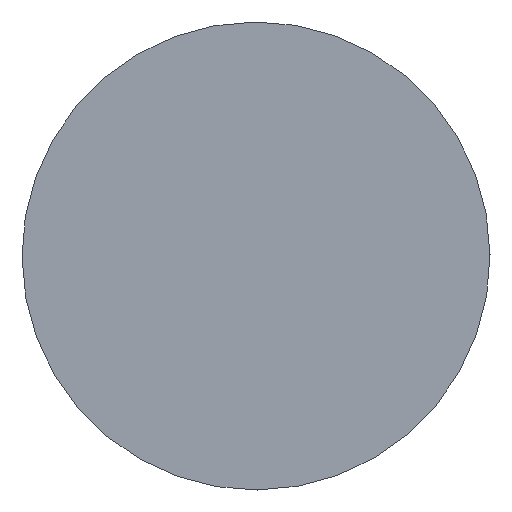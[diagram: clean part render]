
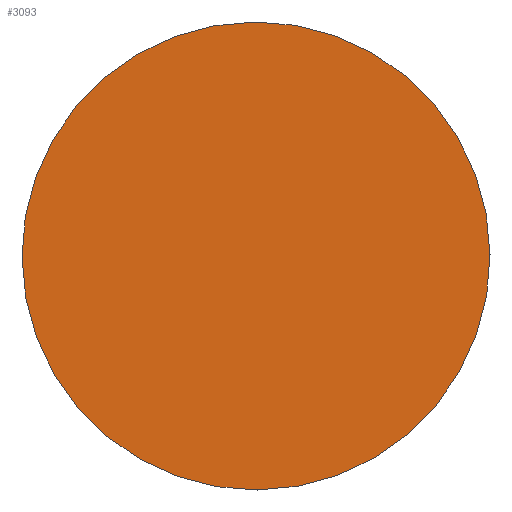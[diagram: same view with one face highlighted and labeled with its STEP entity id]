
A CAD part, left-side view. The second image highlights one B-rep face of the part: STEP entity #3093.
In plain terms, the highlighted planar face has unit normal (-1, 0, 0).
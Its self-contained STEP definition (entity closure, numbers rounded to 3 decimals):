
#3070=CARTESIAN_POINT('',(-52.445,73.84,8.953));
#3071=VERTEX_POINT('',#3070);
#3072=CARTESIAN_POINT('',(-52.445,21.095,0.));
#3073=DIRECTION('',(-1.0,0.,0.));
#3074=DIRECTION('',(0.,0.986,0.167));
#3075=AXIS2_PLACEMENT_3D('',#3072,#3073,#3074);
#3076=CIRCLE('',#3075,53.5);
#3077=EDGE_CURVE('',#3071,#3071,#3076,.T.);
#3085=CARTESIAN_POINT('',(-52.445,67.185,7.824));
#3086=DIRECTION('',(-1.0,0.0,0.0));
#3087=DIRECTION('',(0.0,0.167,-0.986));
#3088=AXIS2_PLACEMENT_3D('',#3085,#3086,#3087);
#3089=PLANE('',#3088);
#3090=ORIENTED_EDGE('',*,*,#3077,.T.);
#3091=EDGE_LOOP('',(#3090));
#3092=FACE_OUTER_BOUND('',#3091,.T.);
#3093=ADVANCED_FACE('',(#3092),#3089,.T.);
